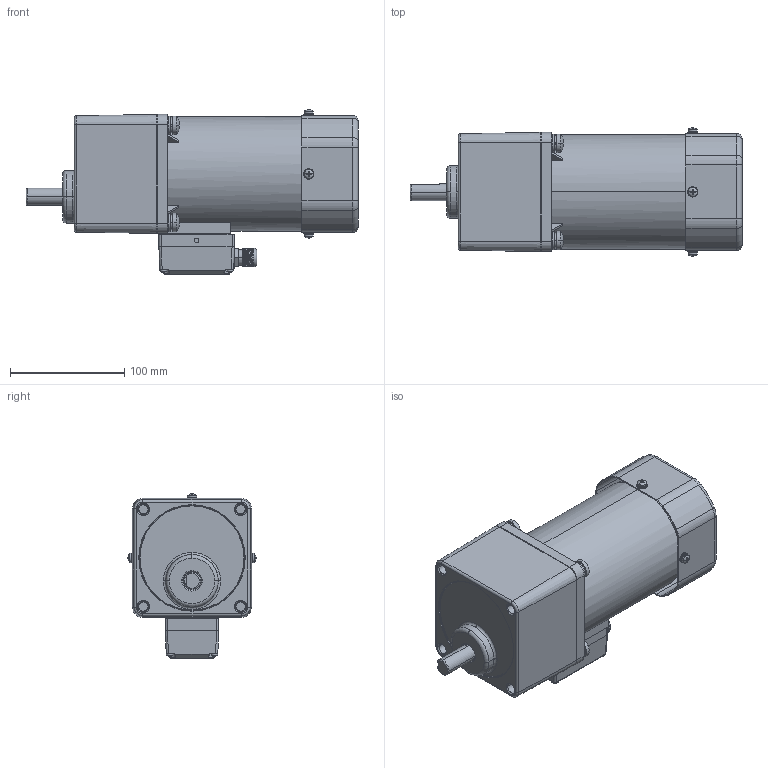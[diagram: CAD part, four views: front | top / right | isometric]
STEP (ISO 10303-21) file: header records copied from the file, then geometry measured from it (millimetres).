
FILE_DESCRIPTION (( 'STEP AP203' ), '1' );
FILE_NAME ('6IK120RGU-CFT(6GU3K-200K).STEP', '2020-04-11T00:19:20', ( 'Windows 蚚誧' ), ( '' ), 'SwSTEP 2.0', 'SolidWorks 2019', '' );
FILE_SCHEMA (( 'CONFIG_CONTROL_DESIGN' ));
Length unit declared in the file: millimetre
Products named in the file (9): 6IK120RGU-CFT(6GU3K-200K); M14SJQ^70TSJXHG(2)_70TSJXHG; M3^70TSJXHG(2)_70TSJXHG; 70TSJXHG(2)^70TSJXHG; 70TSJXHG; 6IK120RA-CFT; 100JXHJK; 6GU3K-200K; TSJXH^70TSJXHG(2)_70TSJXHG
Assembly tree (11 placements, depth 5):
  6IK120RGU-CFT(6GU3K-200K)
    6IK120RA-CFT
      100JXHJK
      70TSJXHG
        70TSJXHG(2)^70TSJXHG
          TSJXH^70TSJXHG(2)_70TSJXHG
          M14SJQ^70TSJXHG(2)_70TSJXHG
          M3^70TSJXHG(2)_70TSJXHG  x4
    6GU3K-200K
Bounding box: 290 x 111.91 x 143.46 mm (x, y, z)
Volume: 2011837.9 mm3; surface area: 210711 mm2
Topology: 33 solids, 33 shells, 1571 faces, 4070 edges, 2590 vertices
Faces by surface type: cylinder 680, plane 458, cone 314, torus 72, sphere 37, bspline 10
Entity records: 42197 total; most frequent: CARTESIAN_POINT 11667, DIRECTION 6476, ORIENTED_EDGE 6108, EDGE_CURVE 3054, AXIS2_PLACEMENT_3D 2592, VERTEX_POINT 1973, CIRCLE 1402, EDGE_LOOP 1293
